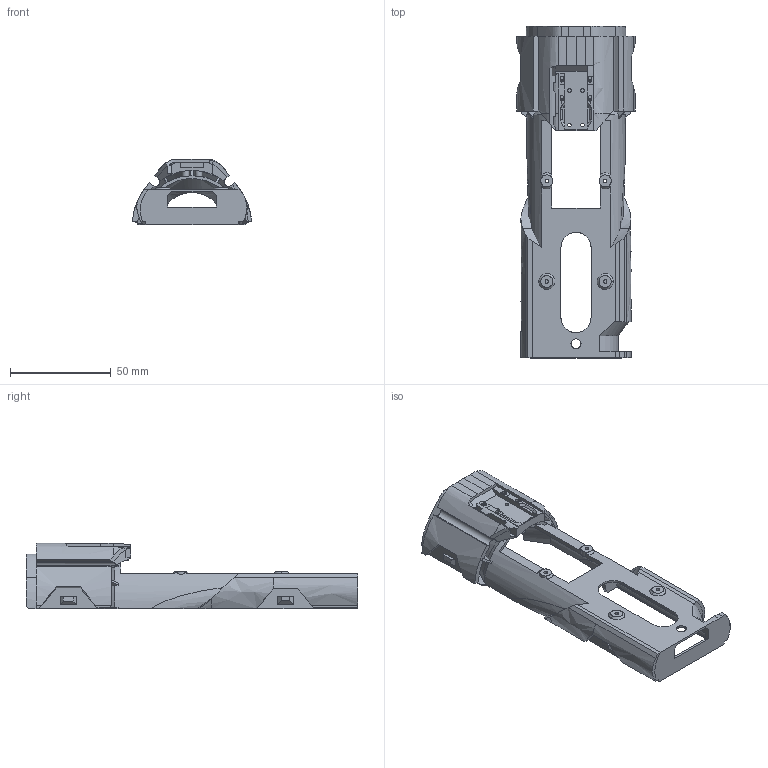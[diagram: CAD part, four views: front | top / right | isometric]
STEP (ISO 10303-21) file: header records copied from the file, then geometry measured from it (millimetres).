
FILE_DESCRIPTION (( 'STEP AP203' ), '1' );
FILE_NAME ('0624shellA.STEP', '2025-06-24T09:37:18', ( 'BBL' ), ( 'BBL' ), 'SwSTEP 2.0', 'SolidWorks 2024', '' );
FILE_SCHEMA (( 'CONFIG_CONTROL_DESIGN' ));
Length unit declared in the file: millimetre
Products named in the file (1): 0624shellA
Bounding box: 59.09 x 165 x 32.5 mm (x, y, z)
Volume: 48995.7 mm3; surface area: 31430.2 mm2
Topology: 5 solids, 5 shells, 413 faces, 1143 edges, 739 vertices
Faces by surface type: plane 186, bspline 137, cylinder 90
Entity records: 28372 total; most frequent: CARTESIAN_POINT 20487, ORIENTED_EDGE 2286, EDGE_CURVE 1143, B_SPLINE_CURVE_WITH_KNOTS 861, VERTEX_POINT 739, DIRECTION 670, EDGE_LOOP 440, ADVANCED_FACE 413
